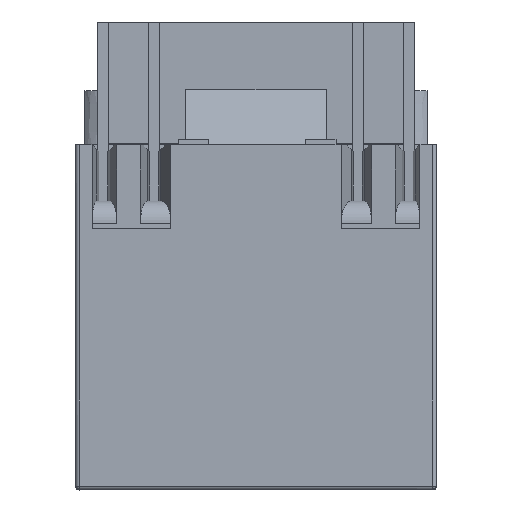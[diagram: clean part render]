
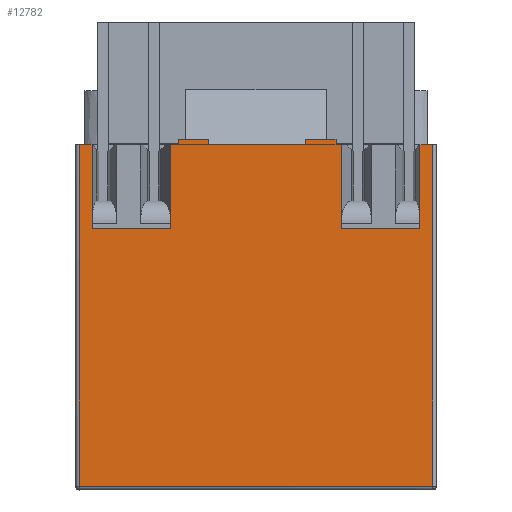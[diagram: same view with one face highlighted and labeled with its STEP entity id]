
A CAD part, top view. The second image highlights one B-rep face of the part: STEP entity #12782.
In plain terms, the highlighted planar face has unit normal (0, 0, 1).
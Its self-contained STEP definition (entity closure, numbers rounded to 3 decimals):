
#160=DIRECTION('',(1.,0.,0.));
#161=VECTOR('',#160,0.575);
#162=CARTESIAN_POINT('',(-10.858,13.391,23.309));
#163=LINE('',#162,#161);
#224=DIRECTION('',(1.,0.,0.));
#225=VECTOR('',#224,0.225);
#226=CARTESIAN_POINT('',(-14.583,13.391,23.309));
#227=LINE('',#226,#225);
#228=DIRECTION('',(1.,0.,0.));
#229=VECTOR('',#228,4.3);
#230=CARTESIAN_POINT('',(-20.233,13.391,23.309));
#231=LINE('',#230,#229);
#232=DIRECTION('',(1.,0.,0.));
#233=VECTOR('',#232,0.325);
#234=CARTESIAN_POINT('',(-21.908,13.391,23.309));
#235=LINE('',#234,#233);
#296=DIRECTION('',(1.,0.,0.));
#297=VECTOR('',#296,0.575);
#298=CARTESIAN_POINT('',(-25.983,13.391,23.309));
#299=LINE('',#298,#297);
#544=DIRECTION('',(-1.,0.,0.));
#545=VECTOR('',#544,15.7);
#546=CARTESIAN_POINT('',(-10.283,-1.759,23.309));
#547=LINE('',#546,#545);
#552=DIRECTION('',(0.,-1.,0.));
#553=VECTOR('',#552,0.233);
#554=CARTESIAN_POINT('',(-21.583,13.624,23.309));
#555=LINE('',#554,#553);
#556=DIRECTION('',(0.,1.,0.));
#557=VECTOR('',#556,0.233);
#558=CARTESIAN_POINT('',(-20.233,13.391,23.309));
#559=LINE('',#558,#557);
#560=DIRECTION('',(0.,-1.,0.));
#561=VECTOR('',#560,0.233);
#562=CARTESIAN_POINT('',(-15.933,13.624,23.309));
#563=LINE('',#562,#561);
#564=DIRECTION('',(0.,1.,0.));
#565=VECTOR('',#564,0.233);
#566=CARTESIAN_POINT('',(-14.583,13.391,23.309));
#567=LINE('',#566,#565);
#572=DIRECTION('',(0.,1.,0.));
#573=VECTOR('',#572,15.15);
#574=CARTESIAN_POINT('',(-25.983,-1.759,23.309));
#575=LINE('',#574,#573);
#601=DIRECTION('',(0.,-1.,0.));
#602=VECTOR('',#601,3.7);
#603=CARTESIAN_POINT('',(-25.408,13.391,23.309));
#604=LINE('',#603,#602);
#1010=DIRECTION('',(0.,1.,0.));
#1011=VECTOR('',#1010,3.7);
#1012=CARTESIAN_POINT('',(-21.908,9.691,23.309));
#1013=LINE('',#1012,#1011);
#1014=DIRECTION('',(1.,0.,0.));
#1015=VECTOR('',#1014,3.5);
#1016=CARTESIAN_POINT('',(-25.408,9.691,23.309));
#1017=LINE('',#1016,#1015);
#1118=DIRECTION('',(1.,0.,0.));
#1119=VECTOR('',#1118,1.35);
#1120=CARTESIAN_POINT('',(-21.583,13.624,23.309));
#1121=LINE('',#1120,#1119);
#1194=DIRECTION('',(1.,0.,0.));
#1195=VECTOR('',#1194,1.35);
#1196=CARTESIAN_POINT('',(-15.933,13.624,23.309));
#1197=LINE('',#1196,#1195);
#1214=DIRECTION('',(0.,-1.,0.));
#1215=VECTOR('',#1214,3.7);
#1216=CARTESIAN_POINT('',(-14.358,13.391,23.309));
#1217=LINE('',#1216,#1215);
#1623=DIRECTION('',(0.,1.,0.));
#1624=VECTOR('',#1623,3.7);
#1625=CARTESIAN_POINT('',(-10.858,9.691,23.309));
#1626=LINE('',#1625,#1624);
#1627=DIRECTION('',(1.,0.,0.));
#1628=VECTOR('',#1627,3.5);
#1629=CARTESIAN_POINT('',(-14.358,9.691,23.309));
#1630=LINE('',#1629,#1628);
#1675=DIRECTION('',(0.,-1.,0.));
#1676=VECTOR('',#1675,15.15);
#1677=CARTESIAN_POINT('',(-10.283,13.391,23.309));
#1678=LINE('',#1677,#1676);
#9701=CARTESIAN_POINT('',(-25.408,9.691,23.309));
#9702=CARTESIAN_POINT('',(-21.908,9.691,23.309));
#9703=VERTEX_POINT('',#9701);
#9704=VERTEX_POINT('',#9702);
#9709=CARTESIAN_POINT('',(-21.583,13.624,23.309));
#9710=VERTEX_POINT('',#9709);
#9711=CARTESIAN_POINT('',(-20.233,13.624,23.309));
#9712=VERTEX_POINT('',#9711);
#9713=CARTESIAN_POINT('',(-15.933,13.624,23.309));
#9714=VERTEX_POINT('',#9713);
#9715=CARTESIAN_POINT('',(-14.583,13.624,23.309));
#9716=VERTEX_POINT('',#9715);
#9717=CARTESIAN_POINT('',(-14.358,9.691,23.309));
#9718=CARTESIAN_POINT('',(-10.858,9.691,23.309));
#9719=VERTEX_POINT('',#9717);
#9720=VERTEX_POINT('',#9718);
#9813=CARTESIAN_POINT('',(-10.283,-1.759,
23.309));
#9815=VERTEX_POINT('',#9813);
#9819=CARTESIAN_POINT('',(-25.983,-1.759,
23.309));
#9821=VERTEX_POINT('',#9819);
#9867=CARTESIAN_POINT('',(-10.858,13.391,23.309));
#9868=VERTEX_POINT('',#9867);
#9889=CARTESIAN_POINT('',(-14.358,13.391,23.309));
#9890=VERTEX_POINT('',#9889);
#9891=CARTESIAN_POINT('',(-14.583,13.391,23.309));
#9892=VERTEX_POINT('',#9891);
#9897=CARTESIAN_POINT('',(-15.933,13.391,23.309));
#9898=VERTEX_POINT('',#9897);
#9899=CARTESIAN_POINT('',(-20.233,13.391,23.309));
#9900=VERTEX_POINT('',#9899);
#9905=CARTESIAN_POINT('',(-21.583,13.391,23.309));
#9906=VERTEX_POINT('',#9905);
#9907=CARTESIAN_POINT('',(-21.908,13.391,23.309));
#9908=VERTEX_POINT('',#9907);
#9929=CARTESIAN_POINT('',(-25.408,13.391,23.309));
#9930=VERTEX_POINT('',#9929);
#9931=CARTESIAN_POINT('',(-10.283,13.391,23.309));
#9932=VERTEX_POINT('',#9931);
#9933=CARTESIAN_POINT('',(-25.983,13.391,23.309));
#9934=VERTEX_POINT('',#9933);
#12741=CARTESIAN_POINT('',(-10.133,-1.909,
23.309));
#12742=DIRECTION('',(0.,0.,1.));
#12743=DIRECTION('',(0.,-1.,0.));
#12744=AXIS2_PLACEMENT_3D('',#12741,#12742,#12743);
#12745=PLANE('',#12744);
#12746=ORIENTED_EDGE('',*,*,#12731,.T.);
#12748=ORIENTED_EDGE('',*,*,#12747,.T.);
#12749=ORIENTED_EDGE('',*,*,#12494,.T.);
#12751=ORIENTED_EDGE('',*,*,#12750,.T.);
#12753=ORIENTED_EDGE('',*,*,#12752,.T.);
#12755=ORIENTED_EDGE('',*,*,#12754,.T.);
#12756=ORIENTED_EDGE('',*,*,#12460,.T.);
#12758=ORIENTED_EDGE('',*,*,#12757,.F.);
#12760=ORIENTED_EDGE('',*,*,#12759,.T.);
#12762=ORIENTED_EDGE('',*,*,#12761,.F.);
#12763=ORIENTED_EDGE('',*,*,#12452,.T.);
#12765=ORIENTED_EDGE('',*,*,#12764,.F.);
#12767=ORIENTED_EDGE('',*,*,#12766,.T.);
#12769=ORIENTED_EDGE('',*,*,#12768,.F.);
#12770=ORIENTED_EDGE('',*,*,#12444,.T.);
#12772=ORIENTED_EDGE('',*,*,#12771,.T.);
#12774=ORIENTED_EDGE('',*,*,#12773,.T.);
#12776=ORIENTED_EDGE('',*,*,#12775,.T.);
#12777=ORIENTED_EDGE('',*,*,#12410,.T.);
#12779=ORIENTED_EDGE('',*,*,#12778,.T.);
#12780=EDGE_LOOP('',(#12746,#12748,#12749,#12751,#12753,#12755,#12756,#12758,
#12760,#12762,#12763,#12765,#12767,#12769,#12770,#12772,#12774,#12776,#12777,
#12779));
#12781=FACE_OUTER_BOUND('',#12780,.F.);
#12782=ADVANCED_FACE('',(#12781),#12745,.T.);
#12410=EDGE_CURVE('',#9868,#9932,#163,.T.);
#12444=EDGE_CURVE('',#9892,#9890,#227,.T.);
#12452=EDGE_CURVE('',#9900,#9898,#231,.T.);
#12460=EDGE_CURVE('',#9908,#9906,#235,.T.);
#12494=EDGE_CURVE('',#9934,#9930,#299,.T.);
#12731=EDGE_CURVE('',#9815,#9821,#547,.T.);
#12747=EDGE_CURVE('',#9821,#9934,#575,.T.);
#12750=EDGE_CURVE('',#9930,#9703,#604,.T.);
#12752=EDGE_CURVE('',#9703,#9704,#1017,.T.);
#12754=EDGE_CURVE('',#9704,#9908,#1013,.T.);
#12757=EDGE_CURVE('',#9710,#9906,#555,.T.);
#12759=EDGE_CURVE('',#9710,#9712,#1121,.T.);
#12761=EDGE_CURVE('',#9900,#9712,#559,.T.);
#12764=EDGE_CURVE('',#9714,#9898,#563,.T.);
#12766=EDGE_CURVE('',#9714,#9716,#1197,.T.);
#12768=EDGE_CURVE('',#9892,#9716,#567,.T.);
#12771=EDGE_CURVE('',#9890,#9719,#1217,.T.);
#12773=EDGE_CURVE('',#9719,#9720,#1630,.T.);
#12775=EDGE_CURVE('',#9720,#9868,#1626,.T.);
#12778=EDGE_CURVE('',#9932,#9815,#1678,.T.);
